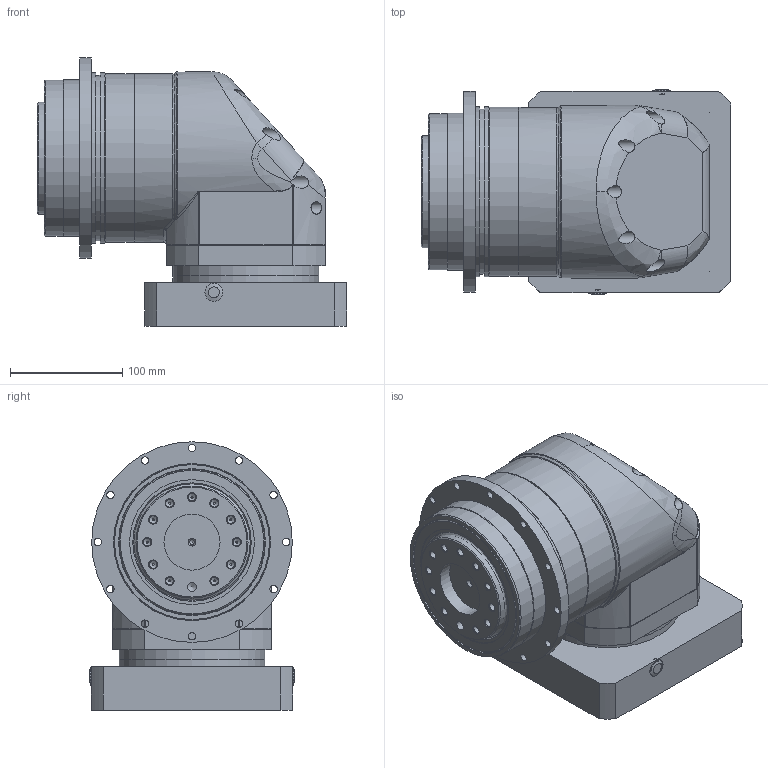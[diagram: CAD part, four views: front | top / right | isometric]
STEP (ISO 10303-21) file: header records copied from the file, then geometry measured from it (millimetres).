
FILE_DESCRIPTION (( 'STEP AP203' ), '1' );
FILE_NAME ('ADR140-L1-35-114.3-200-M12（入力带键槽） .STEP', '2024-05-09T05:48:28', ( '' ), ( '' ), 'SwSTEP 2.0', 'SolidWorks 2018', '' );
FILE_SCHEMA (( 'CONFIG_CONTROL_DESIGN' ));
Length unit declared in the file: millimetre
Products named in the file (1): ADR140-L1-35-114.3-200-M12（入力带键槽） 
Bounding box: 276 x 183 x 239.5 mm (x, y, z)
Volume: 4448389.5 mm3; surface area: 524108.9 mm2
Topology: 15 solids, 16 shells, 476 faces, 1130 edges, 708 vertices
Faces by surface type: plane 170, cylinder 149, cone 74, bspline 73, torus 10
Full cylindrical faces by diameter (mm): 4 x1, 6.5 x9, 6.6 x12, 6.8 x19, 8 x1, 10.2 x4, 11 x9, 13 x10, 15 x6, 16 x2, 24 x1, 28 x1, 50 x1, 68 x1, 74 x1, 85 x1, 87 x1, 95 x1, 100 x3, 106 x1, 108 x1, 111.417 x1, 113 x1, 120 x1, 125.156 x1, 130 x5, 139.2 x1, 140 x1, 147.4 x1, 150.5 x2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
Entity records: 16599 total; most frequent: CARTESIAN_POINT 6859, DIRECTION 1925, ORIENTED_EDGE 1784, EDGE_CURVE 892, AXIS2_PLACEMENT_3D 820, EDGE_LOOP 762, VERTEX_POINT 652, FACE_OUTER_BOUND 587
